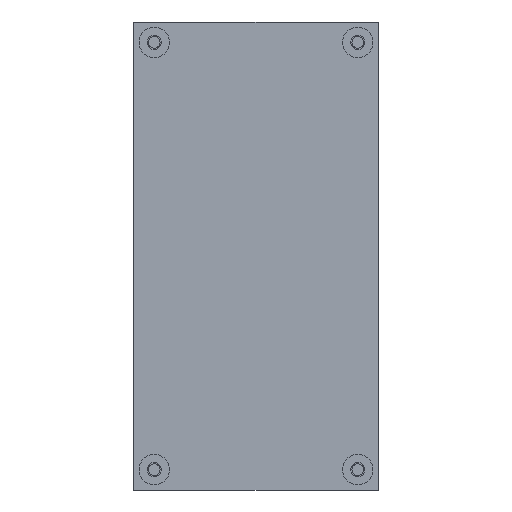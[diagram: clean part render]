
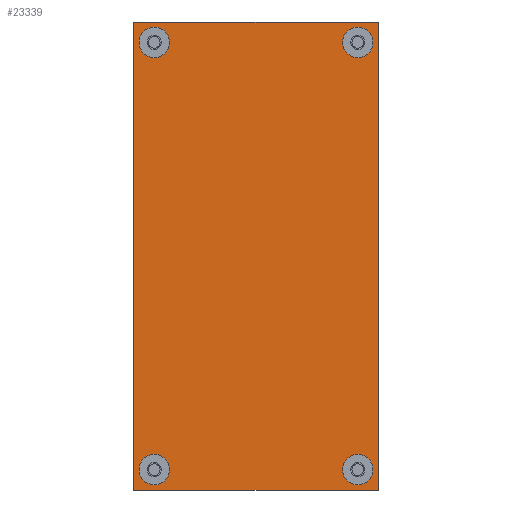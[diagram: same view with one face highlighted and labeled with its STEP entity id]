
A CAD part, front view. The second image highlights one B-rep face of the part: STEP entity #23339.
In plain terms, the highlighted planar face has unit normal (0, -1, 0).
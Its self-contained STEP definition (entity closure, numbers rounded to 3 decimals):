
#382 = VERTEX_POINT ( 'NONE', #9452 ) ;
#561 = VECTOR ( 'NONE', #17348, 1000. ) ;
#1344 = DIRECTION ( 'NONE',  ( 1., 0., 0. ) ) ;
#1737 = FACE_BOUND ( 'NONE', #24701, .T. ) ;
#1893 = ORIENTED_EDGE ( 'NONE', *, *, #8895, .T. ) ;
#2093 = CIRCLE ( 'NONE', #2950, 3.81 ) ;
#2594 = VERTEX_POINT ( 'NONE', #18778 ) ;
#2946 = DIRECTION ( 'NONE',  ( 0., 1., 0. ) ) ;
#2950 = AXIS2_PLACEMENT_3D ( 'NONE', #3946, #12163, #18326 ) ;
#3145 = DIRECTION ( 'NONE',  ( 1., 0., 0. ) ) ;
#3185 = ORIENTED_EDGE ( 'NONE', *, *, #4576, .T. ) ;
#3226 = EDGE_CURVE ( 'NONE', #2594, #21502, #4663, .T. ) ;
#3526 = CIRCLE ( 'NONE', #10403, 3.81 ) ;
#3656 = DIRECTION ( 'NONE',  ( 0., 1., 0. ) ) ;
#3901 = PLANE ( 'NONE',  #20284 ) ;
#3946 = CARTESIAN_POINT ( 'NONE',  ( 92.322, 64.833, 124.22 ) ) ;
#4473 = CARTESIAN_POINT ( 'NONE',  ( 41.522, 64.833, 124.22 ) ) ;
#4576 = EDGE_CURVE ( 'NONE', #16035, #18653, #26535, .T. ) ;
#4663 = CIRCLE ( 'NONE', #9845, 3.81 ) ;
#4760 = VECTOR ( 'NONE', #6663, 1000. ) ;
#4850 = EDGE_CURVE ( 'NONE', #13099, #12627, #2093, .T. ) ;
#5024 = CIRCLE ( 'NONE', #11921, 3.81 ) ;
#5027 = EDGE_CURVE ( 'NONE', #18932, #5464, #5649, .T. ) ;
#5107 = ORIENTED_EDGE ( 'NONE', *, *, #12179, .F. ) ;
#5464 = VERTEX_POINT ( 'NONE', #14865 ) ;
#5540 = CIRCLE ( 'NONE', #23608, 3.81 ) ;
#5649 = LINE ( 'NONE', #15473, #16390 ) ;
#5841 = AXIS2_PLACEMENT_3D ( 'NONE', #20431, #24079, #18412 ) ;
#6200 = ORIENTED_EDGE ( 'NONE', *, *, #4850, .T. ) ;
#6224 = ORIENTED_EDGE ( 'NONE', *, *, #10288, .T. ) ;
#6663 = DIRECTION ( 'NONE',  ( 1., 0., 0. ) ) ;
#6781 = AXIS2_PLACEMENT_3D ( 'NONE', #25592, #22938, #21023 ) ;
#6782 = LINE ( 'NONE', #20926, #4760 ) ;
#6963 = LINE ( 'NONE', #21102, #561 ) ;
#7589 = VERTEX_POINT ( 'NONE', #10536 ) ;
#7698 = EDGE_LOOP ( 'NONE', ( #19418, #24243, #5107, #10599 ) ) ;
#7880 = CARTESIAN_POINT ( 'NONE',  ( 41.522, 64.833, 124.22 ) ) ;
#7914 = EDGE_CURVE ( 'NONE', #7589, #382, #5024, .T. ) ;
#7989 = LINE ( 'NONE', #14496, #13873 ) ;
#8466 = CARTESIAN_POINT ( 'NONE',  ( 97.402, 64.833, 129.3 ) ) ;
#8542 = CARTESIAN_POINT ( 'NONE',  ( 96.132, 64.833, 17.54 ) ) ;
#8887 = CARTESIAN_POINT ( 'NONE',  ( 88.512, 64.833, 17.54 ) ) ;
#8895 = EDGE_CURVE ( 'NONE', #12627, #13099, #5540, .T. ) ;
#9452 = CARTESIAN_POINT ( 'NONE',  ( 45.332, 64.833, 17.54 ) ) ;
#9533 = DIRECTION ( 'NONE',  ( 0., 1., 0. ) ) ;
#9642 = EDGE_LOOP ( 'NONE', ( #1893, #6200 ) ) ;
#9845 = AXIS2_PLACEMENT_3D ( 'NONE', #7880, #9533, #19896 ) ;
#10198 = EDGE_LOOP ( 'NONE', ( #18417, #23008 ) ) ;
#10288 = EDGE_CURVE ( 'NONE', #382, #7589, #11449, .T. ) ;
#10403 = AXIS2_PLACEMENT_3D ( 'NONE', #13622, #3656, #17643 ) ;
#10536 = CARTESIAN_POINT ( 'NONE',  ( 37.712, 64.833, 17.54 ) ) ;
#10599 = ORIENTED_EDGE ( 'NONE', *, *, #15802, .F. ) ;
#10820 = ORIENTED_EDGE ( 'NONE', *, *, #16263, .T. ) ;
#11203 = CIRCLE ( 'NONE', #23643, 3.81 ) ;
#11343 = DIRECTION ( 'NONE',  ( -1., 0., 0. ) ) ;
#11449 = CIRCLE ( 'NONE', #5841, 3.81 ) ;
#11921 = AXIS2_PLACEMENT_3D ( 'NONE', #21391, #2946, #1344 ) ;
#12123 = DIRECTION ( 'NONE',  ( 1., 0., 0. ) ) ;
#12163 = DIRECTION ( 'NONE',  ( 0., 1., 0. ) ) ;
#12179 = EDGE_CURVE ( 'NONE', #25801, #18932, #7989, .T. ) ;
#12627 = VERTEX_POINT ( 'NONE', #21910 ) ;
#13099 = VERTEX_POINT ( 'NONE', #18756 ) ;
#13622 = CARTESIAN_POINT ( 'NONE',  ( 92.322, 64.833, 17.54 ) ) ;
#13873 = VECTOR ( 'NONE', #22274, 1000. ) ;
#14496 = CARTESIAN_POINT ( 'NONE',  ( 97.402, 64.833, 12.46 ) ) ;
#14632 = VERTEX_POINT ( 'NONE', #16535 ) ;
#14815 = CARTESIAN_POINT ( 'NONE',  ( 97.402, 64.833, 12.46 ) ) ;
#14865 = CARTESIAN_POINT ( 'NONE',  ( 36.442, 64.833, 12.46 ) ) ;
#15473 = CARTESIAN_POINT ( 'NONE',  ( 36.442, 64.833, 12.46 ) ) ;
#15496 = CARTESIAN_POINT ( 'NONE',  ( 92.322, 64.833, 124.22 ) ) ;
#15617 = EDGE_CURVE ( 'NONE', #5464, #14632, #6963, .T. ) ;
#15802 = EDGE_CURVE ( 'NONE', #14632, #25801, #6782, .T. ) ;
#16035 = VERTEX_POINT ( 'NONE', #8542 ) ;
#16263 = EDGE_CURVE ( 'NONE', #18653, #16035, #3526, .T. ) ;
#16390 = VECTOR ( 'NONE', #11343, 1000. ) ;
#16535 = CARTESIAN_POINT ( 'NONE',  ( 36.442, 64.833, 129.3 ) ) ;
#16809 = CARTESIAN_POINT ( 'NONE',  ( 45.332, 64.833, 124.22 ) ) ;
#17313 = EDGE_LOOP ( 'NONE', ( #10820, #3185 ) ) ;
#17348 = DIRECTION ( 'NONE',  ( 0., 0., 1. ) ) ;
#17643 = DIRECTION ( 'NONE',  ( 1., 0., 0. ) ) ;
#18326 = DIRECTION ( 'NONE',  ( 1., 0., 0. ) ) ;
#18328 = DIRECTION ( 'NONE',  ( 1., 0., 0. ) ) ;
#18412 = DIRECTION ( 'NONE',  ( 1., 0., 0. ) ) ;
#18417 = ORIENTED_EDGE ( 'NONE', *, *, #3226, .T. ) ;
#18435 = EDGE_CURVE ( 'NONE', #21502, #2594, #11203, .T. ) ;
#18653 = VERTEX_POINT ( 'NONE', #8887 ) ;
#18756 = CARTESIAN_POINT ( 'NONE',  ( 96.132, 64.833, 124.22 ) ) ;
#18778 = CARTESIAN_POINT ( 'NONE',  ( 37.712, 64.833, 124.22 ) ) ;
#18932 = VERTEX_POINT ( 'NONE', #14815 ) ;
#19418 = ORIENTED_EDGE ( 'NONE', *, *, #15617, .F. ) ;
#19538 = DIRECTION ( 'NONE',  ( 0., 1., 0. ) ) ;
#19896 = DIRECTION ( 'NONE',  ( 1., 0., 0. ) ) ;
#19917 = FACE_BOUND ( 'NONE', #9642, .T. ) ;
#20284 = AXIS2_PLACEMENT_3D ( 'NONE', #22196, #21924, #12123 ) ;
#20431 = CARTESIAN_POINT ( 'NONE',  ( 41.522, 64.833, 17.54 ) ) ;
#20926 = CARTESIAN_POINT ( 'NONE',  ( 36.442, 64.833, 129.3 ) ) ;
#21023 = DIRECTION ( 'NONE',  ( 1., 0., 0. ) ) ;
#21102 = CARTESIAN_POINT ( 'NONE',  ( 36.442, 64.833, 12.46 ) ) ;
#21391 = CARTESIAN_POINT ( 'NONE',  ( 41.522, 64.833, 17.54 ) ) ;
#21502 = VERTEX_POINT ( 'NONE', #16809 ) ;
#21910 = CARTESIAN_POINT ( 'NONE',  ( 88.512, 64.833, 124.22 ) ) ;
#21924 = DIRECTION ( 'NONE',  ( 0., 1., 0. ) ) ;
#22076 = FACE_OUTER_BOUND ( 'NONE', #7698, .T. ) ;
#22196 = CARTESIAN_POINT ( 'NONE',  ( 36.442, 64.833, 129.3 ) ) ;
#22274 = DIRECTION ( 'NONE',  ( 0., 0., -1. ) ) ;
#22318 = FACE_BOUND ( 'NONE', #10198, .T. ) ;
#22938 = DIRECTION ( 'NONE',  ( 0., 1., 0. ) ) ;
#23008 = ORIENTED_EDGE ( 'NONE', *, *, #18435, .T. ) ;
#23339 = ADVANCED_FACE ( 'NONE', ( #1737, #19917, #22318, #26203, #22076 ), #3901, .F. ) ;
#23608 = AXIS2_PLACEMENT_3D ( 'NONE', #15496, #19538, #3145 ) ;
#23643 = AXIS2_PLACEMENT_3D ( 'NONE', #4473, #26497, #18328 ) ;
#24079 = DIRECTION ( 'NONE',  ( 0., 1., 0. ) ) ;
#24243 = ORIENTED_EDGE ( 'NONE', *, *, #5027, .F. ) ;
#24468 = ORIENTED_EDGE ( 'NONE', *, *, #7914, .T. ) ;
#24701 = EDGE_LOOP ( 'NONE', ( #24468, #6224 ) ) ;
#25592 = CARTESIAN_POINT ( 'NONE',  ( 92.322, 64.833, 17.54 ) ) ;
#25801 = VERTEX_POINT ( 'NONE', #8466 ) ;
#26203 = FACE_BOUND ( 'NONE', #17313, .T. ) ;
#26497 = DIRECTION ( 'NONE',  ( 0., 1., 0. ) ) ;
#26535 = CIRCLE ( 'NONE', #6781, 3.81 ) ;
